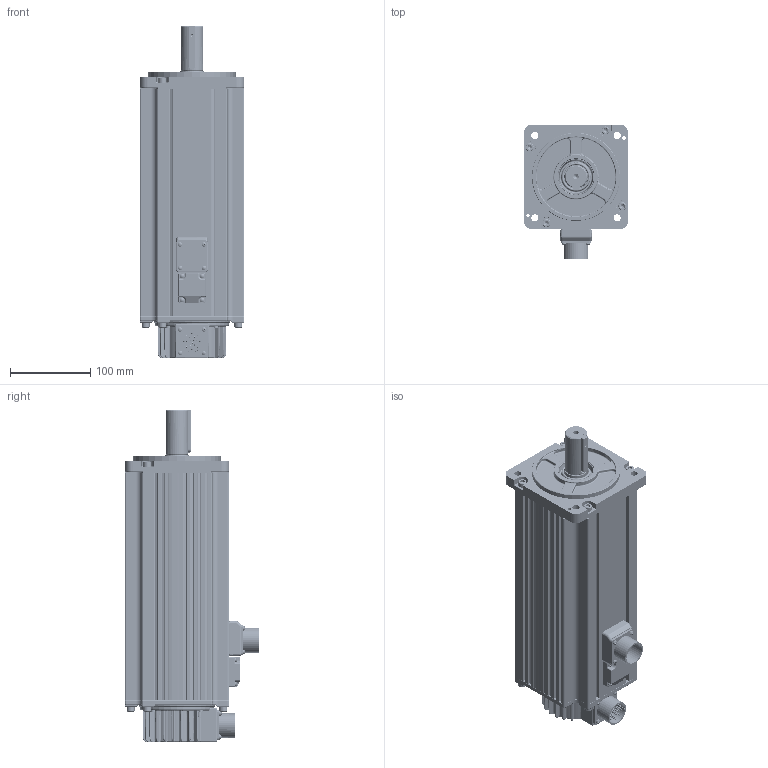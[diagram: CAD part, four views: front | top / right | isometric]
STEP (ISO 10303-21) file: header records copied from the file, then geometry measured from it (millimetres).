
FILE_DESCRIPTION((''),'2;1');
FILE_NAME('0001_ASM','2019-11-15T09:59:15',('z17474'),(''),'CREO PARAMETRIC BY PTC INC, 2017260','CREO PARAMETRIC BY PTC INC, 2017260','');
FILE_SCHEMA(('CONFIG_CONTROL_DESIGN'));
Products named in the file (34): ____-1_AF0; 31090609___AF0_ASM; 31100148-LJ; 15050041-LJ; 31100134-____; _____AF0_ASM; 31090121_B01_ISMH3-85B15CD-U131_AF0; 31070585_AF0; _____1_AF0_ASM; __10; __1; 31150038-LJ-1_ASM; 31160032-ZP-1_ASM; 31090149-ZP_ASM; 31190209___-A_D72-GB89_3-86_AF0; 31100089-LJ; 31090131-LJ_AF0; 15050037-LJ; ____2; __10_1_AF0; __1_1_AF0; 31150038-LJ-1_1_AF0_ASM; 31160032-ZP-1_1_AF0_ASM; 0000691107_AF0_ASM; 0620_AF0; 0620_AF1; 0620_AF2; 0620_AF3; 0312-1; 0620; JIAN; 22010052_2; 22010052_1; 0001_ASM
Assembly tree (57 placements, depth 5):
  0001_ASM
    _____AF0_ASM
      31090609___AF0_ASM
        ____-1_AF0
      31100148-LJ
      15050041-LJ
      31100134-____
    31090121_B01_ISMH3-85B15CD-U131_AF0
    _____1_AF0_ASM
      31070585_AF0
    31090149-ZP_ASM
      31160032-ZP-1_ASM
        31150038-LJ-1_ASM
          __10
          __1
    31190209___-A_D72-GB89_3-86_AF0
    31100089-LJ
    31090131-LJ_AF0
    15050037-LJ
    ____2
    0000691107_AF0_ASM
      31160032-ZP-1_1_AF0_ASM
        31150038-LJ-1_1_AF0_ASM
          __10_1_AF0
          __1_1_AF0
    0620_AF0
    0620_AF1
    0620_AF2
    0620_AF3
    0312-1  x4
    0620  x4
    JIAN
    22010052_2  x12
    22010052_1  x8
Bounding box: 130 x 167.5 x 414 mm (x, y, z)
Volume: 1270915.4 mm3; surface area: 499595.9 mm2
Topology: 45 solids, 48 shells, 5116 faces, 11527 edges, 6484 vertices
Faces by surface type: cone 1899, cylinder 1856, plane 744, torus 304, bspline 205, sphere 108
Entity records: 90925 total; most frequent: CARTESIAN_POINT 37767, DIRECTION 11618, ORIENTED_EDGE 10788, EDGE_CURVE 5400, AXIS2_PLACEMENT_3D 4731, VERTEX_POINT 3307, CIRCLE 2620, EDGE_LOOP 2413
